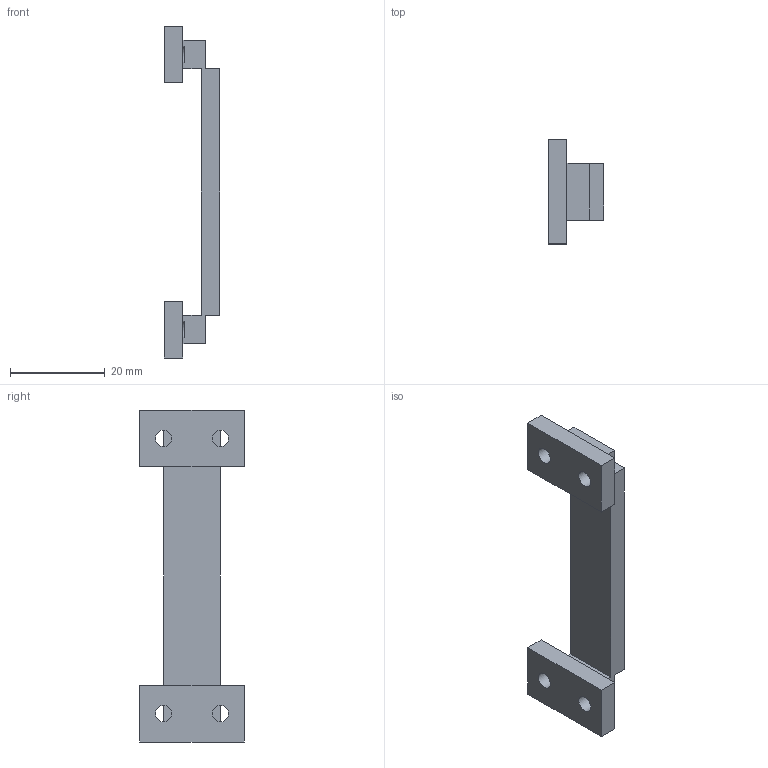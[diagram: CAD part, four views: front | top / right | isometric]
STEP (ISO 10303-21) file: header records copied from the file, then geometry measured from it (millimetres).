
FILE_DESCRIPTION(('Open CASCADE Model'),'2;1');
FILE_NAME('Open CASCADE Shape Model','2026-08-16T15:13:29',('Author'),( 'Open CASCADE'),'Open CASCADE STEP processor 7.9','Open CASCADE 7.9' ,'Unknown');
FILE_SCHEMA(('AUTOMOTIVE_DESIGN { 1 0 10303 214 1 1 1 1 }'));
Length unit declared in the file: millimetre
Products named in the file (1): Open CASCADE STEP translator 7.9 9
Bounding box: 11.8 x 22 x 70 mm (x, y, z)
Volume: 5137.6 mm3; surface area: 3798.2 mm2
Topology: 1 solids, 1 shells, 32 faces, 92 edges, 60 vertices
Faces by surface type: plane 28, cylinder 4
Full cylindrical faces by diameter (mm): 3.5 x4
Entity records: 2234 total; most frequent: CARTESIAN_POINT 393, DIRECTION 330, LINE 228, VECTOR 228, ORIENTED_EDGE 184, PCURVE 184, DEFINITIONAL_REPRESENTATION 184, EDGE_CURVE 92
